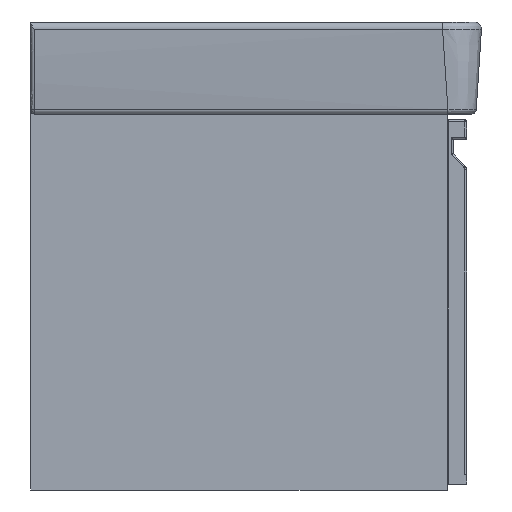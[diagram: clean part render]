
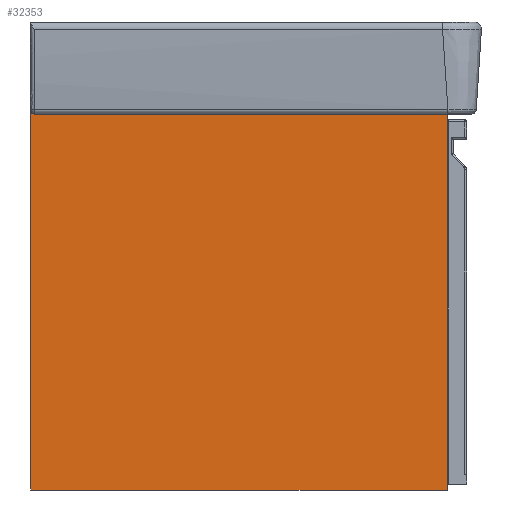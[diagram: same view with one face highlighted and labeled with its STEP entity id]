
A CAD part, left-side view. The second image highlights one B-rep face of the part: STEP entity #32353.
In plain terms, the highlighted planar face has unit normal (-1, 0, 0).
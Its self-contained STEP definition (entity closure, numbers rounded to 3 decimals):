
#1366=PLANE('',#36845);
#3482=LINE('',#195405,#6064);
#3486=LINE('',#195413,#6068);
#3489=LINE('',#195420,#6071);
#3490=LINE('',#195421,#6072);
#6064=VECTOR('',#42433,10.);
#6068=VECTOR('',#42439,1.);
#6071=VECTOR('',#42446,430.);
#6072=VECTOR('',#42447,387.);
#8459=FACE_OUTER_BOUND('',#10004,.T.);
#10004=EDGE_LOOP('',(#27188,#27189,#27190,#27191));
#16966=VERTEX_POINT('',#195398);
#16969=VERTEX_POINT('',#195403);
#16972=VERTEX_POINT('',#195411);
#16974=VERTEX_POINT('',#195419);
#21734=EDGE_CURVE('',#16969,#16966,#3482,.T.);
#21738=EDGE_CURVE('',#16969,#16972,#3486,.T.);
#21741=EDGE_CURVE('',#16974,#16972,#3489,.T.);
#21742=EDGE_CURVE('',#16974,#16966,#3490,.T.);
#27188=ORIENTED_EDGE('',*,*,#21734,.F.);
#27189=ORIENTED_EDGE('',*,*,#21738,.T.);
#27190=ORIENTED_EDGE('',*,*,#21741,.F.);
#27191=ORIENTED_EDGE('',*,*,#21742,.T.);
#32353=ADVANCED_FACE('',(#8459),#1366,.T.);
#36845=AXIS2_PLACEMENT_3D('',#195418,#42444,#42445);
#42433=DIRECTION('',(0.,-1.,0.));
#42439=DIRECTION('',(0.,0.,-1.));
#42444=DIRECTION('center_axis',(-1.,0.,0.));
#42445=DIRECTION('ref_axis',(0.,0.,1.));
#42446=DIRECTION('',(0.,1.,0.));
#42447=DIRECTION('',(0.,0.,1.));
#195398=CARTESIAN_POINT('',(-13935.071,-15501.725,-1475.291));
#195403=CARTESIAN_POINT('',(-13935.071,-15071.725,-1475.291));
#195405=CARTESIAN_POINT('',(-13935.071,-15071.725,-1475.291));
#195411=CARTESIAN_POINT('',(-13935.071,-15071.725,-1865.291));
#195413=CARTESIAN_POINT('',(-13935.071,-15071.725,-1468.291));
#195418=CARTESIAN_POINT('Origin',(-13935.071,-15071.725,-1865.291));
#195419=CARTESIAN_POINT('',(-13935.071,-15501.725,-1865.291));
#195420=CARTESIAN_POINT('',(-13935.071,-15501.725,-1865.291));
#195421=CARTESIAN_POINT('',(-13935.071,-15501.725,-1865.291));
